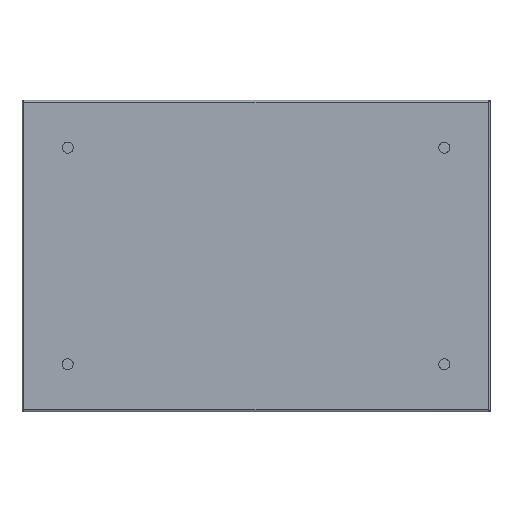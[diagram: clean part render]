
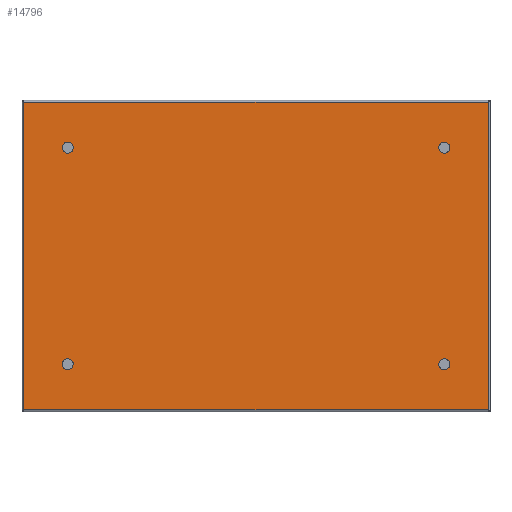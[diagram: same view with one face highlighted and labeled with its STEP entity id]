
A CAD part, top view. The second image highlights one B-rep face of the part: STEP entity #14796.
In plain terms, the highlighted planar face has unit normal (0, 0, 1).
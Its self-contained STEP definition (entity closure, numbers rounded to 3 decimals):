
#8671=CARTESIAN_POINT(' ',(591.7,392.7,0.));
#8672=VERTEX_POINT(' ',#8671);
#9526=CARTESIAN_POINT(' ',(591.7,2.3,0.));
#9527=VERTEX_POINT(' ',#9526);
#10501=CARTESIAN_POINT(' ',(591.7,392.7,0.));
#10506=DIRECTION(' ',(0.,-1.,0.));
#10511=VECTOR(' ',#10506,1.);
#10516=LINE('',#10501,#10511);
#10521=EDGE_CURVE(' ',#8672,#9527,#10516,.T.);
#12671=CARTESIAN_POINT(' ',(2.3,2.3,0.));
#12672=VERTEX_POINT(' ',#12671);
#13266=CARTESIAN_POINT(' ',(2.3,392.7,0.));
#13267=VERTEX_POINT(' ',#13266);
#14666=DIRECTION(' ',(-0.,-0.,1.));
#14671=CARTESIAN_POINT(' ',(591.7,2.3,0.));
#14676=DIRECTION(' ',(0.,1.,0.));
#14681=AXIS2_PLACEMENT_3D(' ',#14671,#14666,#14676);
#14686=PLANE('NONE',#14681);
#14691=CARTESIAN_POINT(' ',(2.3,2.3,0.));
#14696=DIRECTION(' ',(1.,0.,0.));
#14701=VECTOR(' ',#14696,1.);
#14706=LINE('',#14691,#14701);
#14711=EDGE_CURVE(' ',#12672,#9527,#14706,.T.);
#14716=ORIENTED_EDGE(' ',*,*,#14711,.T.);
#14721=ORIENTED_EDGE(' ',*,*,#10521,.F.);
#14726=CARTESIAN_POINT(' ',(591.7,392.7,0.));
#14731=DIRECTION(' ',(-1.,0.,0.));
#14736=VECTOR(' ',#14731,1.);
#14741=LINE('',#14726,#14736);
#14746=EDGE_CURVE(' ',#8672,#13267,#14741,.T.);
#14751=ORIENTED_EDGE(' ',*,*,#14746,.T.);
#14756=CARTESIAN_POINT(' ',(2.3,392.7,0.));
#14761=DIRECTION(' ',(0.,-1.,0.));
#14766=VECTOR(' ',#14761,1.);
#14771=LINE('',#14756,#14766);
#14776=EDGE_CURVE(' ',#13267,#12672,#14771,.T.);
#14781=ORIENTED_EDGE(' ',*,*,#14776,.T.);
#14786=EDGE_LOOP(' ',(#14716,#14721,#14751,#14781));
#14791=FACE_OUTER_BOUND(' ',#14786,.T.);
#14796=ADVANCED_FACE('NONE',(#14791),#14686,.T.);
